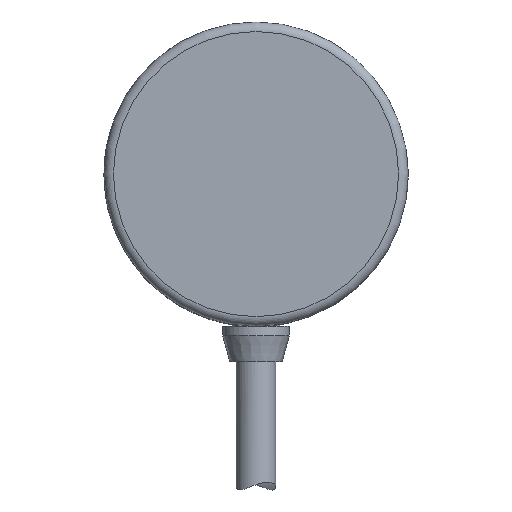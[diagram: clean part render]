
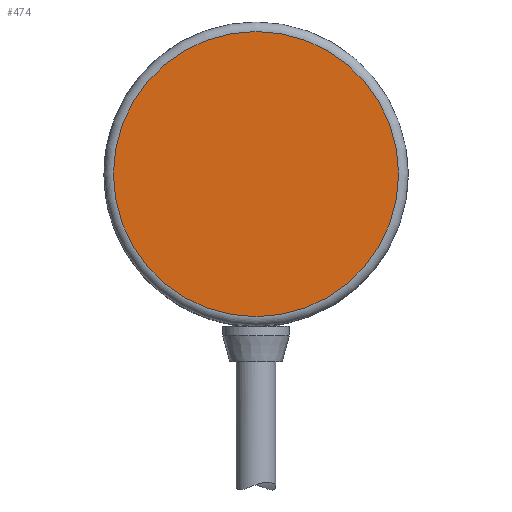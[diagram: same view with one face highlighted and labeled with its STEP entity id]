
A CAD part, top view. The second image highlights one B-rep face of the part: STEP entity #474.
In plain terms, the highlighted planar face has unit normal (0, 0, 1).
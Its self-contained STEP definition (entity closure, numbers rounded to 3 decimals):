
#474=ADVANCED_FACE('',(#812),#813,.F.);
#812=FACE_OUTER_BOUND('',#1162,.T.);
#813=PLANE('',#1163);
#1162=EDGE_LOOP('',(#1608));
#1163=AXIS2_PLACEMENT_3D('',#1609,#1610,#1611);
#1608=ORIENTED_EDGE('',*,*,#2001,.T.);
#1609=CARTESIAN_POINT('',(-8.0,0.,24.0));
#1610=DIRECTION('',(0.,0.,-1.0));
#1611=DIRECTION('',(1.0,0.,0.));
#2001=EDGE_CURVE('',#2252,#2252,#2253,.F.);
#2252=VERTEX_POINT('',#2611);
#2253=CIRCLE('',#2612,15.0);
#2611=CARTESIAN_POINT('',(15.0,0.,24.0));
#2612=AXIS2_PLACEMENT_3D('',#3420,#3421,#3422);
#3420=CARTESIAN_POINT('',(0.,0.,24.0));
#3421=DIRECTION('',(0.,0.,-1.0));
#3422=DIRECTION('',(1.0,0.,0.));
